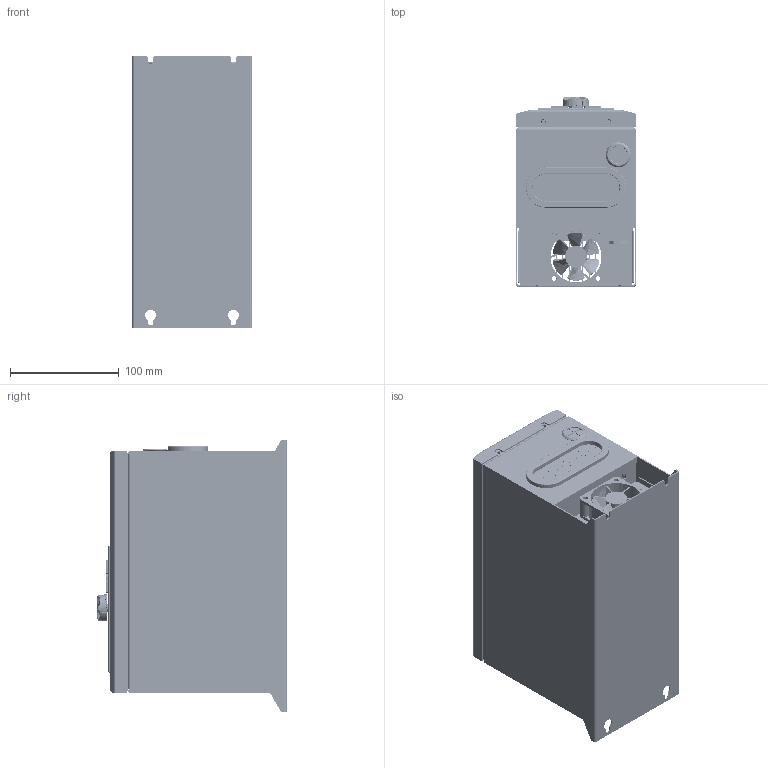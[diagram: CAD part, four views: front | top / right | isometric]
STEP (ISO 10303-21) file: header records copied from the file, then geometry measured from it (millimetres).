
FILE_DESCRIPTION(('STEP AP203'), '1');
FILE_NAME('BU-75-6 _ Òîðìîçíîé ìîäóëü', '2026-04-14T11:20:53', ('admin'), (''), 'C3D Converter', 'C3D Toolkit', '');
FILE_SCHEMA(('CONFIG_CONTROL_DESIGN'));
Length unit declared in the file: millimetre
Products named in the file (52): BU-75-6; CBR600-4T075-SPCC_ASM; CBR600-4T075-201_ASM; CBR600-4T075-301_ASM; CBR600-4T075-301; CBR600-4T075-302_ASM; CBR600-4T075-302; TPS-4-10-ZC; BSO-M4-10-ZC; BSO-3R5M3-22-ZC; CBR600-4T075-303_ASM; CBR600-4T075-303; S-M4-ZC; SHUXIANGOU; CBR600-4T075-304_ASM; CBR600-4T075-304; CBR600-4T075-305_ASM; CBR600-4T075-305; CBR600-4T075-402_ASM; CBR600-4T075-402; CBR600-4T075-403_ASM; CBR600-4T075-403; BSO-3R5M3-6-ZC; CBR600-4T075-404_ASM; CBR600-4T075-404; S-M5-ZC; CBR600-4T075-SCREW_ASM; M6X16_GB9074_13_ASM; M6X16_GB29_2; D6_GB9074_26; D6_GB9074_24; CBR600-4T075-DEVICE_ASM; GM600-JP_ASM; GM600-JP-SJ_ASM; GM600-JP-SJ-01; GM600-JP-SJ-02; GM600-JP-SJ-03; GM600-JP-SJ-04; GM600-JP-PCB_ASM; GM600-JP-PCB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
Assembly tree (81 placements, depth 5):
  BU-75-6
    CBR600-4T075-SPCC_ASM
      CBR600-4T075-201_ASM
        CBR600-4T075-301_ASM
          CBR600-4T075-301
        CBR600-4T075-302_ASM
          CBR600-4T075-302
          TPS-4-10-ZC  x2
          BSO-M4-10-ZC  x4
          BSO-3R5M3-22-ZC
        CBR600-4T075-303_ASM
          CBR600-4T075-303
          S-M4-ZC  x2
        SHUXIANGOU
        CBR600-4T075-304_ASM
          CBR600-4T075-304
          S-M4-ZC  x4
        CBR600-4T075-305_ASM  x2
          CBR600-4T075-305
          S-M4-ZC
      CBR600-4T075-402_ASM
        CBR600-4T075-402
        TPS-4-10-ZC  x2
      CBR600-4T075-403_ASM
        CBR600-4T075-403
        BSO-3R5M3-6-ZC  x4
      CBR600-4T075-404_ASM
        CBR600-4T075-404
        S-M5-ZC
        S-M4-ZC  x2
    CBR600-4T075-SCREW_ASM
      M6X16_GB9074_13_ASM  x8
        M6X16_GB29_2
        D6_GB9074_26
        D6_GB9074_24
    CBR600-4T075-DEVICE_ASM
      GM600-JP_ASM
        GM600-JP-SJ_ASM
          GM600-JP-SJ-01
          GM600-JP-SJ-02
          GM600-JP-SJ-03
          GM600-JP-SJ-04
        GM600-JP-PCB_ASM
          GM600-JP-PCB
          PCB
          RJ45-GC186556
          LED50361
          DWQ
          ANJIAN  x5
        GM600-JP-SJ-05
        GM600-JP-SJ-06
      DRTB35-RST-04
      HXQ_18
      HXQ_91X37X10
      AFB_5020
    CBR600-4T075-401
Bounding box: 110 x 173.8 x 250 mm (x, y, z)
Volume: 695547.2 mm3; surface area: 768528 mm2
Topology: 81 solids, 81 shells, 12877 faces, 34089 edges, 22011 vertices
Faces by surface type: plane 9884, cylinder 1529, bspline 926, cone 311, torus 119, extrusion 68, sphere 30, revolution 10
Full cylindrical faces by diameter (mm): 0.5 x18, 0.9 x8, 1 x24, 1.5 x1, 2 x8, 2.3 x5, 2.54 x1, 3 x11, 3.3 x1, 3.5 x8, 3.8 x5, 4 x33, 4.3 x8, 4.5 x7, 4.8 x4, 5 x11, 5.38 x17, 5.4 x13, 5.5 x2, 6 x41, 6.38 x1, 6.4 x1, 6.8 x1, 7.11 x4, 8 x23, 9 x1, 9.2 x1, 11 x8, 12 x8, 16 x2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
Entity records: 366130 total; most frequent: CARTESIAN_POINT 132050, ORIENTED_EDGE 38314, DIRECTION 30398, EDGE_CURVE 19157, VECTOR 13498, LINE 13430, VERTEX_POINT 12359, AXIS2_PLACEMENT_3D 8445
